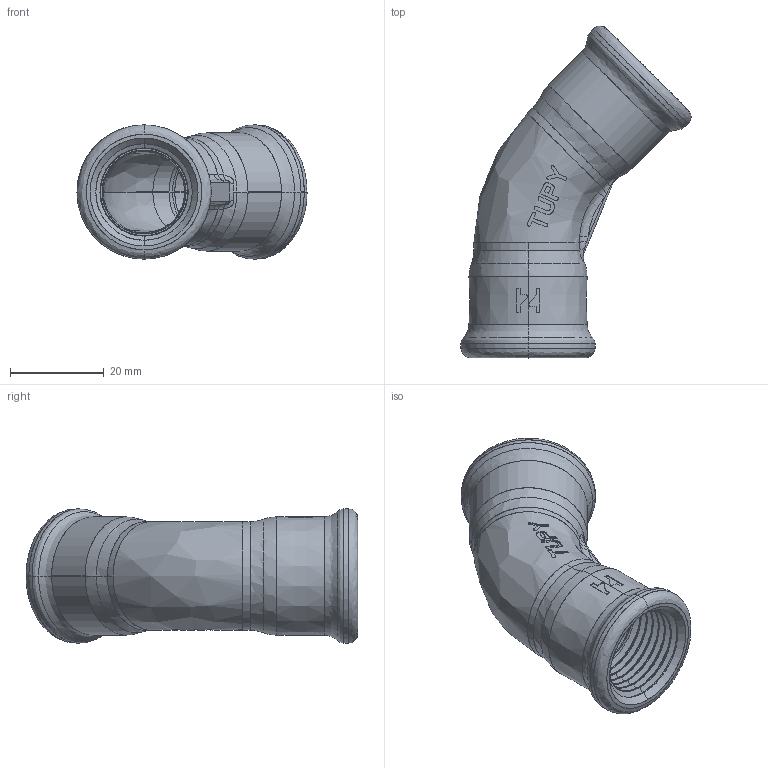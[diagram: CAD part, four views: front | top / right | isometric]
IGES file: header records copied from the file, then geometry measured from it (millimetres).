
Start section: SolidWorks IGES file using analytic representation for surfaces
Global section: file name: C:\Users\Joel Rosa\Desktop\Tubulação\12-26\12-26-004.IGS; native system: SolidWorks 2011; preprocessor: SolidWorks 2011; author: Joel Rosa; date: 131007.223038; units: millimetre
Bounding box: 49.03 x 70.73 x 28.6 mm (x, y, z)
Surface area: 11448.5 mm2 (no closed solid volume)
Topology: 0 solids, 0 shells, 332 faces, 2448 edges, 2448 vertices
Faces by surface type: bspline 240, revolution 92
